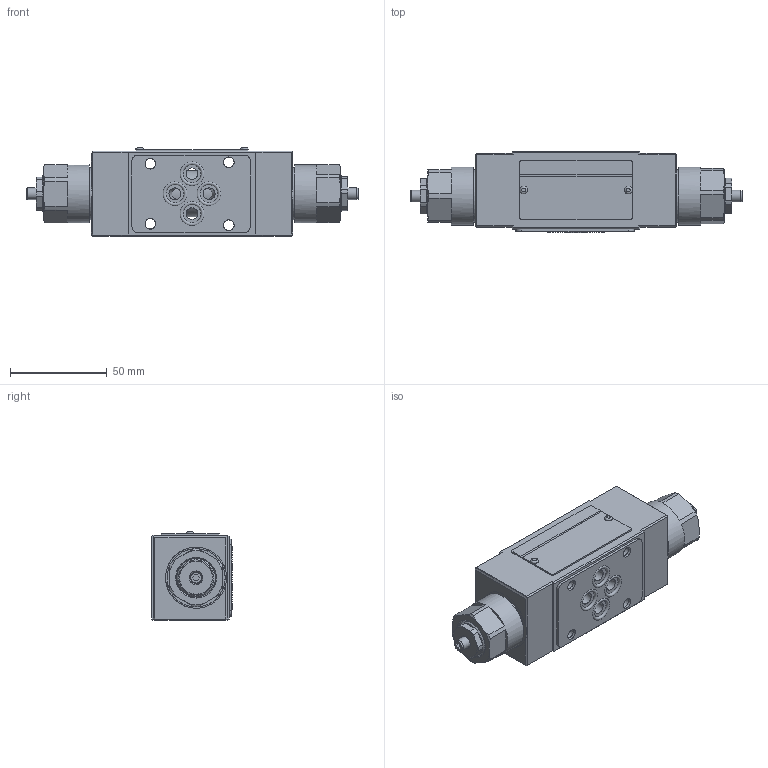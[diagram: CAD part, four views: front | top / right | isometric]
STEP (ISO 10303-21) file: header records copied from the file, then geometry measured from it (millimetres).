
FILE_DESCRIPTION(/* description */ (''),/* implementation_level */ '2;1');
FILE_NAME(/* name */ 'Z2FRM6CB2-2XJ叠加式调速阀.prt.stp',/* time_stamp */ '2022-03-30T19:56:41+08:00',/* author */ (''),/* organization */ (''),/* preprocessor_version */ 'ST-DEVELOPER v16.7',/* originating_system */ 'SIEMENS PLM Software NX 12.0',/* authorisation */ '');
FILE_SCHEMA (('AUTOMOTIVE_DESIGN { 1 0 10303 214 3 1 1 1 }'));
Length unit declared in the file: millimetre
Products named in the file (1): Z2FRM6CB2-2XJ叠加式调速阀
Bounding box: 171.4 x 41.78 x 45.8 mm (x, y, z)
Volume: 240744.9 mm3; surface area: 67387.7 mm2
Topology: 27 solids, 29 shells, 459 faces, 1023 edges, 650 vertices
Faces by surface type: plane 214, cylinder 158, cone 55, torus 20, bspline 12
Full cylindrical faces by diameter (mm): 1 x4, 1.8 x4, 2 x4, 2.5 x2, 3 x4, 5 x2, 5.4 x4, 5.5 x4, 6 x10, 9 x2, 12 x2, 12.2 x4, 15 x2, 16 x8, 17 x2, 17.6 x4, 18 x8, 18.8 x4, 19 x22, 20 x6, 23.8 x2, 25 x2, 27 x4, 30 x2, 31.5 x2
Entity records: 18061 total; most frequent: CARTESIAN_POINT 8671, DIRECTION 1789, ORIENTED_EDGE 1526, EDGE_CURVE 763, AXIS2_PLACEMENT_3D 736, EDGE_LOOP 665, VERTEX_POINT 576, FACE_BOUND 445
